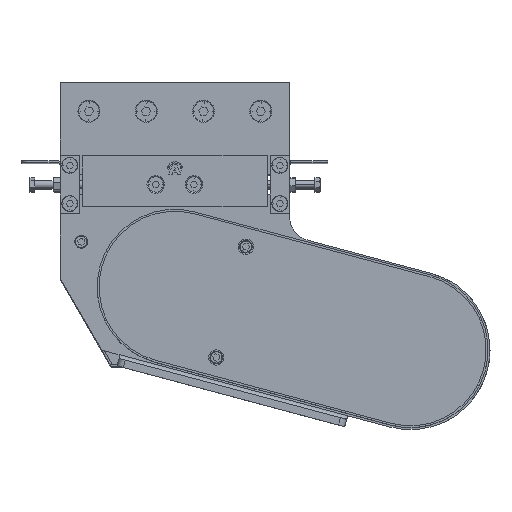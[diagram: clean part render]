
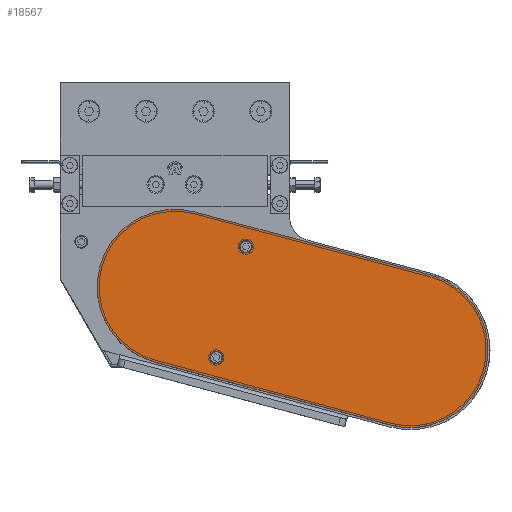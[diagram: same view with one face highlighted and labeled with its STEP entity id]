
A CAD part, top view. The second image highlights one B-rep face of the part: STEP entity #18567.
In plain terms, the highlighted planar face has unit normal (0, 0, 1) as drawn and (0, 0, -1) by its records, which use the part's own axes.
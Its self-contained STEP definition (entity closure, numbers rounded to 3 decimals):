
#289 = VERTEX_POINT ( 'NONE', #53510 ) ;
#658 = CARTESIAN_POINT ( 'NONE',  ( 0., 191.5, 0. ) ) ;
#810 = LINE ( 'NONE', #1003, #23822 ) ;
#1003 = CARTESIAN_POINT ( 'NONE',  ( -61., 191.5, 0. ) ) ;
#1825 = CARTESIAN_POINT ( 'NONE',  ( -45., 145.75, 0. ) ) ;
#3490 = CIRCLE ( 'NONE', #57011, 61. ) ;
#4601 = AXIS2_PLACEMENT_3D ( 'NONE', #23997, #56122, #28602 ) ;
#4672 = DIRECTION ( 'NONE',  ( 0., 1., 0. ) ) ;
#5273 = DIRECTION ( 'NONE',  ( 1., 0., 0. ) ) ;
#5602 = DIRECTION ( 'NONE',  ( 0., -1., 0. ) ) ;
#5784 = ORIENTED_EDGE ( 'NONE', *, *, #53261, .F. ) ;
#6417 = DIRECTION ( 'NONE',  ( 1., 0., 0. ) ) ;
#6838 = FACE_OUTER_BOUND ( 'NONE', #41464, .T. ) ;
#7211 = DIRECTION ( 'NONE',  ( 0., 0., 1. ) ) ;
#7316 = CARTESIAN_POINT ( 'NONE',  ( -45., 145.75, 0. ) ) ;
#9012 = VERTEX_POINT ( 'NONE', #49882 ) ;
#9075 = CARTESIAN_POINT ( 'NONE',  ( 61., 191.5, 0. ) ) ;
#11340 = AXIS2_PLACEMENT_3D ( 'NONE', #25512, #7211, #39361 ) ;
#11927 = DIRECTION ( 'NONE',  ( 1., 0., 0. ) ) ;
#12229 = VERTEX_POINT ( 'NONE', #15685 ) ;
#12340 = CARTESIAN_POINT ( 'NONE',  ( -41.5, 145.75, 0. ) ) ;
#12529 = AXIS2_PLACEMENT_3D ( 'NONE', #1825, #33958, #6417 ) ;
#15440 = EDGE_CURVE ( 'NONE', #30826, #49078, #21467, .T. ) ;
#15515 = EDGE_CURVE ( 'NONE', #49078, #289, #3490, .T. ) ;
#15685 = CARTESIAN_POINT ( 'NONE',  ( -61., 0., 0. ) ) ;
#18033 = CARTESIAN_POINT ( 'NONE',  ( 45., 145.75, 0. ) ) ;
#18567 = ADVANCED_FACE ( 'NONE', ( #19063, #43498, #6838 ), #43781, .F. ) ;
#19063 = FACE_BOUND ( 'NONE', #57042, .T. ) ;
#21467 = LINE ( 'NONE', #9075, #43032 ) ;
#22434 = CIRCLE ( 'NONE', #12529, 3.5 ) ;
#22646 = DIRECTION ( 'NONE',  ( 1., 0., 0. ) ) ;
#22727 = AXIS2_PLACEMENT_3D ( 'NONE', #18033, #50127, #22646 ) ;
#23656 = CARTESIAN_POINT ( 'NONE',  ( 61., 0., 0. ) ) ;
#23822 = VECTOR ( 'NONE', #5602, 1000. ) ;
#23997 = CARTESIAN_POINT ( 'NONE',  ( 45., 145.75, 0. ) ) ;
#25512 = CARTESIAN_POINT ( 'NONE',  ( 0., 191.5, 0. ) ) ;
#26020 = EDGE_CURVE ( 'NONE', #9012, #39581, #56703, .T. ) ;
#26518 = CARTESIAN_POINT ( 'NONE',  ( 0., 0., 0. ) ) ;
#27212 = CARTESIAN_POINT ( 'NONE',  ( -48.5, 145.75, 0. ) ) ;
#28480 = AXIS2_PLACEMENT_3D ( 'NONE', #7316, #39462, #11927 ) ;
#28602 = DIRECTION ( 'NONE',  ( 1., 0., 0. ) ) ;
#30312 = EDGE_CURVE ( 'NONE', #36665, #35391, #22434, .T. ) ;
#30826 = VERTEX_POINT ( 'NONE', #23656 ) ;
#31157 = DIRECTION ( 'NONE',  ( 1., 0., 0. ) ) ;
#31611 = ORIENTED_EDGE ( 'NONE', *, *, #33624, .F. ) ;
#32799 = DIRECTION ( 'NONE',  ( 0., 0., 1. ) ) ;
#33624 = EDGE_CURVE ( 'NONE', #39581, #9012, #37249, .T. ) ;
#33958 = DIRECTION ( 'NONE',  ( 0., 0., -1. ) ) ;
#34000 = ORIENTED_EDGE ( 'NONE', *, *, #15440, .F. ) ;
#35391 = VERTEX_POINT ( 'NONE', #27212 ) ;
#36665 = VERTEX_POINT ( 'NONE', #12340 ) ;
#37210 = AXIS2_PLACEMENT_3D ( 'NONE', #26518, #58655, #31157 ) ;
#37249 = CIRCLE ( 'NONE', #4601, 3.5 ) ;
#39361 = DIRECTION ( 'NONE',  ( 1., 0., 0. ) ) ;
#39435 = CIRCLE ( 'NONE', #37210, 61. ) ;
#39462 = DIRECTION ( 'NONE',  ( 0., 0., -1. ) ) ;
#39581 = VERTEX_POINT ( 'NONE', #50434 ) ;
#41464 = EDGE_LOOP ( 'NONE', ( #51461, #34000, #5784, #44781 ) ) ;
#42367 = ORIENTED_EDGE ( 'NONE', *, *, #26020, .F. ) ;
#42727 = CIRCLE ( 'NONE', #28480, 3.5 ) ;
#43032 = VECTOR ( 'NONE', #4672, 1000. ) ;
#43498 = FACE_BOUND ( 'NONE', #54961, .T. ) ;
#43781 = PLANE ( 'NONE',  #11340 ) ;
#44781 = ORIENTED_EDGE ( 'NONE', *, *, #51456, .F. ) ;
#46846 = ORIENTED_EDGE ( 'NONE', *, *, #30312, .F. ) ;
#49078 = VERTEX_POINT ( 'NONE', #53516 ) ;
#49882 = CARTESIAN_POINT ( 'NONE',  ( 48.5, 145.75, 0. ) ) ;
#50127 = DIRECTION ( 'NONE',  ( 0., 0., -1. ) ) ;
#50434 = CARTESIAN_POINT ( 'NONE',  ( 41.5, 145.75, 0. ) ) ;
#51456 = EDGE_CURVE ( 'NONE', #289, #12229, #810, .T. ) ;
#51461 = ORIENTED_EDGE ( 'NONE', *, *, #15515, .F. ) ;
#53261 = EDGE_CURVE ( 'NONE', #12229, #30826, #39435, .T. ) ;
#53510 = CARTESIAN_POINT ( 'NONE',  ( -61., 191.5, 0. ) ) ;
#53516 = CARTESIAN_POINT ( 'NONE',  ( 61., 191.5, 0. ) ) ;
#54961 = EDGE_LOOP ( 'NONE', ( #42367, #31611 ) ) ;
#55949 = ORIENTED_EDGE ( 'NONE', *, *, #56566, .F. ) ;
#56122 = DIRECTION ( 'NONE',  ( 0., 0., -1. ) ) ;
#56566 = EDGE_CURVE ( 'NONE', #35391, #36665, #42727, .T. ) ;
#56703 = CIRCLE ( 'NONE', #22727, 3.5 ) ;
#57011 = AXIS2_PLACEMENT_3D ( 'NONE', #658, #32799, #5273 ) ;
#57042 = EDGE_LOOP ( 'NONE', ( #46846, #55949 ) ) ;
#58655 = DIRECTION ( 'NONE',  ( 0., 0., 1. ) ) ;
